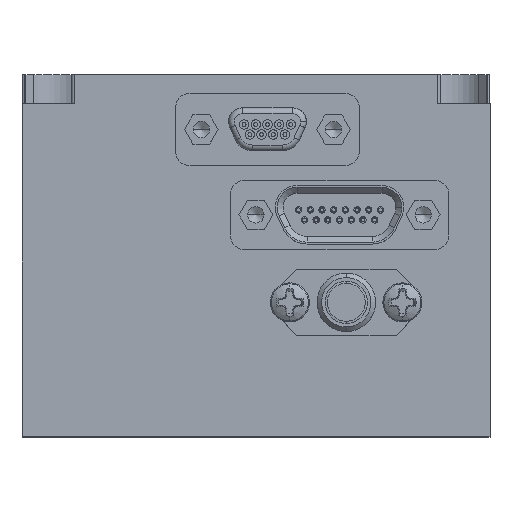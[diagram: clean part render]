
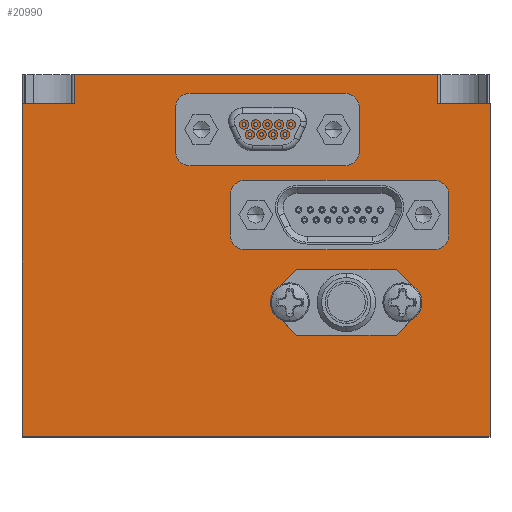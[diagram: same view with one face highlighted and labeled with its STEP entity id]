
A CAD part, top view. The second image highlights one B-rep face of the part: STEP entity #20990.
In plain terms, the highlighted planar face has unit normal (0, 0, 1).
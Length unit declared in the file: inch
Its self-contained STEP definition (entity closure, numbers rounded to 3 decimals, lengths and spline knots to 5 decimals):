
#571 = CARTESIAN_POINT ( 'NONE',  ( -2., 1.5458, 1.5 ) ) ;
#2898 = DIRECTION ( 'NONE',  ( 0., -1., 0. ) ) ;
#3048 = VECTOR ( 'NONE', #39253, 39.37008 ) ;
#3406 = VECTOR ( 'NONE', #18028, 39.37008 ) ;
#3492 = CARTESIAN_POINT ( 'NONE',  ( -2., 1.4208, 1.5 ) ) ;
#3672 = VERTEX_POINT ( 'NONE', #8160 ) ;
#3783 = DIRECTION ( 'NONE',  ( 0., 0., -1. ) ) ;
#6661 = EDGE_CURVE ( 'NONE', #30869, #18857, #20262, .T. ) ;
#6772 = CARTESIAN_POINT ( 'NONE',  ( 0., 1.4208, 1.5 ) ) ;
#6822 = PLANE ( 'NONE',  #40429 ) ;
#7924 = ORIENTED_EDGE ( 'NONE', *, *, #9003, .F. ) ;
#8160 = CARTESIAN_POINT ( 'NONE',  ( 0., 0., 1.5 ) ) ;
#8232 = LINE ( 'NONE', #37888, #25029 ) ;
#9003 = EDGE_CURVE ( 'NONE', #32490, #35907, #9161, .T. ) ;
#9161 = LINE ( 'NONE', #31225, #21531 ) ;
#9615 = DIRECTION ( 'NONE',  ( 1., 0., 0. ) ) ;
#9716 = CARTESIAN_POINT ( 'NONE',  ( -1.77698, 1.5458, 1.5 ) ) ;
#10228 = FACE_OUTER_BOUND ( 'NONE', #24694, .T. ) ;
#10520 = CARTESIAN_POINT ( 'NONE',  ( -0.22302, 1.4208, 1.5 ) ) ;
#11431 = LINE ( 'NONE', #10520, #23316 ) ;
#11465 = LINE ( 'NONE', #20503, #3048 ) ;
#12395 = DIRECTION ( 'NONE',  ( 1., 0., 0. ) ) ;
#15068 = VECTOR ( 'NONE', #29875, 39.37008 ) ;
#15210 = ORIENTED_EDGE ( 'NONE', *, *, #25531, .T. ) ;
#15361 = ORIENTED_EDGE ( 'NONE', *, *, #27615, .T. ) ;
#15376 = VECTOR ( 'NONE', #38262, 39.37008 ) ;
#16978 = EDGE_CURVE ( 'NONE', #18857, #3672, #37309, .T. ) ;
#18028 = DIRECTION ( 'NONE',  ( 1., 0., 0. ) ) ;
#18857 = VERTEX_POINT ( 'NONE', #6772 ) ;
#20262 = LINE ( 'NONE', #39911, #3406 ) ;
#20503 = CARTESIAN_POINT ( 'NONE',  ( -2., 0., 1.5 ) ) ;
#20541 = CARTESIAN_POINT ( 'NONE',  ( -0.22302, 1.4208, 1.5 ) ) ;
#20990 = ADVANCED_FACE ( 'NONE', ( #10228 ), #6822, .F. ) ;
#21217 = ORIENTED_EDGE ( 'NONE', *, *, #25306, .T. ) ;
#21531 = VECTOR ( 'NONE', #12395, 39.37008 ) ;
#21600 = EDGE_CURVE ( 'NONE', #27227, #32490, #31779, .T. ) ;
#22742 = CARTESIAN_POINT ( 'NONE',  ( -2., 1.5458, 1.5 ) ) ;
#22745 = ORIENTED_EDGE ( 'NONE', *, *, #6661, .F. ) ;
#23316 = VECTOR ( 'NONE', #38919, 39.37008 ) ;
#23806 = LINE ( 'NONE', #571, #15376 ) ;
#24694 = EDGE_LOOP ( 'NONE', ( #15210, #7924, #39007, #36202, #15361, #21217, #40537, #22745 ) ) ;
#25029 = VECTOR ( 'NONE', #9615, 39.37008 ) ;
#25123 = VERTEX_POINT ( 'NONE', #3492 ) ;
#25306 = EDGE_CURVE ( 'NONE', #36245, #3672, #11465, .T. ) ;
#25531 = EDGE_CURVE ( 'NONE', #30869, #35907, #11431, .T. ) ;
#25879 = DIRECTION ( 'NONE',  ( -1., 0., 0. ) ) ;
#27227 = VERTEX_POINT ( 'NONE', #35035 ) ;
#27615 = EDGE_CURVE ( 'NONE', #25123, #36245, #23806, .T. ) ;
#29420 = EDGE_CURVE ( 'NONE', #25123, #27227, #8232, .T. ) ;
#29875 = DIRECTION ( 'NONE',  ( 0., 1., 0. ) ) ;
#30869 = VERTEX_POINT ( 'NONE', #20541 ) ;
#31225 = CARTESIAN_POINT ( 'NONE',  ( -2., 1.5458, 1.5 ) ) ;
#31779 = LINE ( 'NONE', #33023, #15068 ) ;
#32490 = VERTEX_POINT ( 'NONE', #9716 ) ;
#33023 = CARTESIAN_POINT ( 'NONE',  ( -1.77698, 1.4208, 1.5 ) ) ;
#35035 = CARTESIAN_POINT ( 'NONE',  ( -1.77698, 1.4208, 1.5 ) ) ;
#35907 = VERTEX_POINT ( 'NONE', #38503 ) ;
#36202 = ORIENTED_EDGE ( 'NONE', *, *, #29420, .F. ) ;
#36245 = VERTEX_POINT ( 'NONE', #40773 ) ;
#36332 = VECTOR ( 'NONE', #2898, 39.37008 ) ;
#37309 = LINE ( 'NONE', #37428, #36332 ) ;
#37428 = CARTESIAN_POINT ( 'NONE',  ( 0., 1.5458, 1.5 ) ) ;
#37888 = CARTESIAN_POINT ( 'NONE',  ( -2., 1.4208, 1.5 ) ) ;
#38262 = DIRECTION ( 'NONE',  ( 0., -1., 0. ) ) ;
#38503 = CARTESIAN_POINT ( 'NONE',  ( -0.22302, 1.5458, 1.5 ) ) ;
#38919 = DIRECTION ( 'NONE',  ( 0., 1., 0. ) ) ;
#39007 = ORIENTED_EDGE ( 'NONE', *, *, #21600, .F. ) ;
#39253 = DIRECTION ( 'NONE',  ( 1., 0., 0. ) ) ;
#39911 = CARTESIAN_POINT ( 'NONE',  ( -0.22302, 1.4208, 1.5 ) ) ;
#40429 = AXIS2_PLACEMENT_3D ( 'NONE', #22742, #3783, #25879 ) ;
#40537 = ORIENTED_EDGE ( 'NONE', *, *, #16978, .F. ) ;
#40773 = CARTESIAN_POINT ( 'NONE',  ( -2., 0., 1.5 ) ) ;
